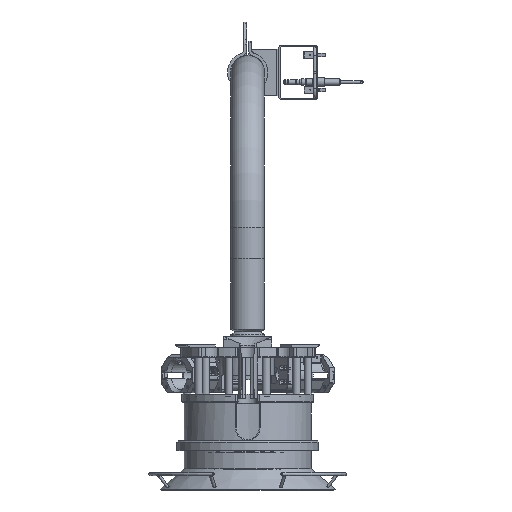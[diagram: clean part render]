
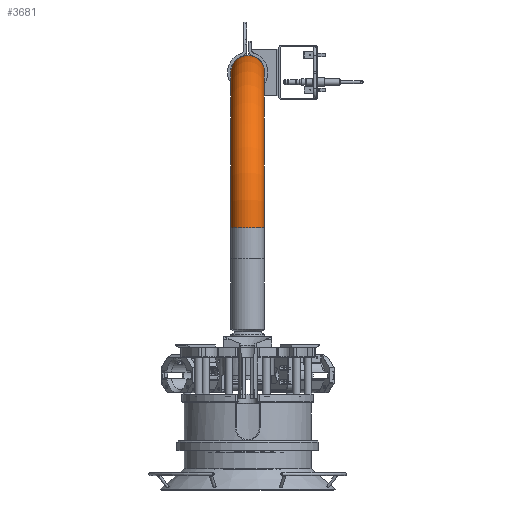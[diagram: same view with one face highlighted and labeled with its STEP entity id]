
A CAD part, left-side view. The second image highlights one B-rep face of the part: STEP entity #3681.
In plain terms, the highlighted toroidal (fillet/blend) face has major radius 1016 mm and minor radius 109.537 mm.
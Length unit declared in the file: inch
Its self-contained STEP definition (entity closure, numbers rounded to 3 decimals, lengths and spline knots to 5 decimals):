
#775=TOROIDAL_SURFACE('',#26827,40.,4.3125);
#1555=FACE_BOUND('',#6109,.T.);
#1556=FACE_BOUND('',#6110,.T.);
#3681=ADVANCED_FACE('',(#1555,#1556),#775,.T.);
#6109=EDGE_LOOP('',(#9349));
#6110=EDGE_LOOP('',(#9350));
#7836=CIRCLE('',#26825,4.3125);
#7837=CIRCLE('',#26826,4.3125);
#9349=ORIENTED_EDGE('',*,*,#18645,.T.);
#9350=ORIENTED_EDGE('',*,*,#18646,.F.);
#15500=VERTEX_POINT('',#36899);
#15501=VERTEX_POINT('',#36901);
#18645=EDGE_CURVE('',#15500,#15500,#7836,.T.);
#18646=EDGE_CURVE('',#15501,#15501,#7837,.T.);
#26825=AXIS2_PLACEMENT_3D('',#36898,#29583,#29584);
#26826=AXIS2_PLACEMENT_3D('',#36900,#29585,#29586);
#26827=AXIS2_PLACEMENT_3D('',#36902,#29587,#29588);
#29583=DIRECTION('',(0.,0.,1.));
#29584=DIRECTION('',(1.,0.,0.));
#29585=DIRECTION('',(1.,0.,0.));
#29586=DIRECTION('',(0.,0.,-1.));
#29587=DIRECTION('',(0.,1.,0.));
#29588=DIRECTION('',(0.,0.,-1.));
#36898=CARTESIAN_POINT('',(-72.,0.,39.092));
#36899=CARTESIAN_POINT('',(-67.6875,0.,39.092));
#36900=CARTESIAN_POINT('',(-32.,0.,79.092));
#36901=CARTESIAN_POINT('',(-32.,0.,74.7795));
#36902=CARTESIAN_POINT('',(-32.,0.,39.092));
